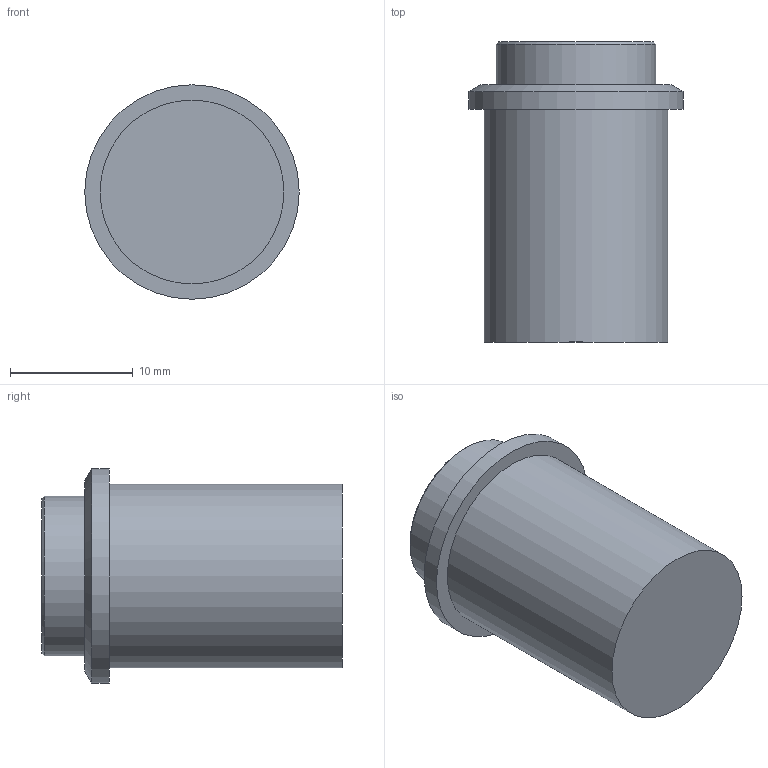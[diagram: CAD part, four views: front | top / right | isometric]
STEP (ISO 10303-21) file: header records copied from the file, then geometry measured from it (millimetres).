
FILE_DESCRIPTION(('FreeCAD Model'),'2;1');
FILE_NAME('Open CASCADE Shape Model','2023-05-06T18:44:57',('Author'),( ''),'Open CASCADE STEP processor 7.5','FreeCAD','Unknown');
FILE_SCHEMA(('AUTOMOTIVE_DESIGN { 1 0 10303 214 1 1 1 1 }'));
Length unit declared in the file: millimetre
Products named in the file (1): button on_off 220AC
Bounding box: 17.5 x 24.5 x 17.5 mm (x, y, z)
Volume: 4183.1 mm3; surface area: 2698.7 mm2
Topology: 2 solids, 2 shells, 12 faces, 17 edges, 11 vertices
Faces by surface type: plane 6, cylinder 4, cone 2
Full cylindrical faces by diameter (mm): 13 x1, 13.5 x1, 15 x1, 17.5 x1
Entity records: 377 total; most frequent: DIRECTION 46, CARTESIAN_POINT 33, AXIS2_PLACEMENT_3D 23, EDGE_LOOP 20, ORIENTED_EDGE 20, FACE_OUTER_BOUND 16, UNCERTAINTY_MEASURE_WITH_UNIT 14, FILL_AREA_STYLE 13
